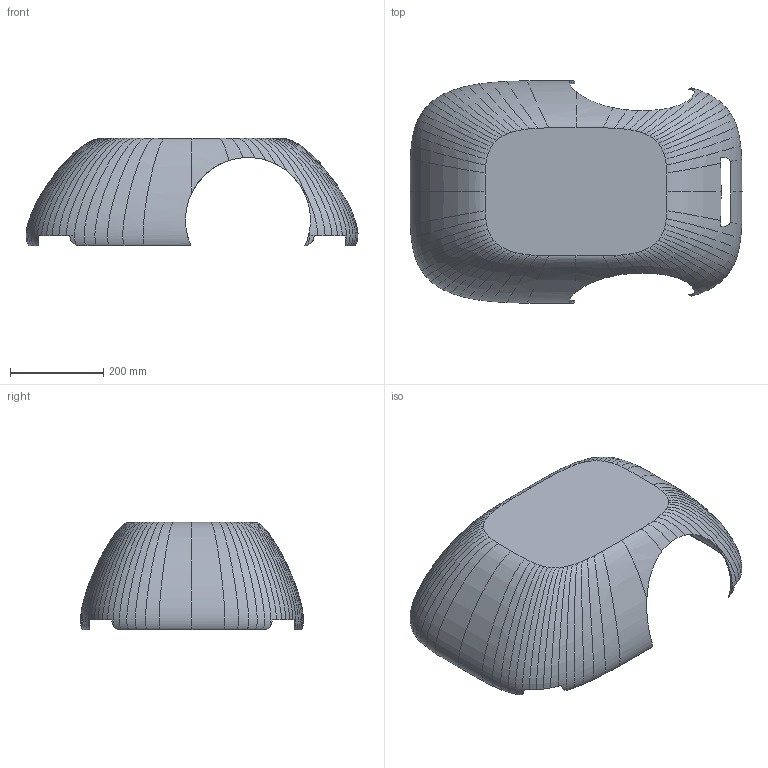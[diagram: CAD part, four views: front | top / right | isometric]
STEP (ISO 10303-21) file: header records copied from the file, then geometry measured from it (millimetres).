
FILE_DESCRIPTION(('Open CASCADE Model'),'2;1');
FILE_NAME('Open CASCADE Shape Model','2026-09-16T16:54:27',('Author'),( 'Open CASCADE'),'Open CASCADE STEP processor 7.8','Open CASCADE 7.8' ,'Unknown');
FILE_SCHEMA(('AUTOMOTIVE_DESIGN { 1 0 10303 214 1 1 1 1 }'));
Length unit declared in the file: millimetre
Products named in the file (1): Open CASCADE STEP translator 7.8 1
Bounding box: 711.88 x 477.86 x 230 mm (x, y, z)
Volume: 2391298.5 mm3; surface area: 970369 mm2
Topology: 1 solids, 1 shells, 178 faces, 535 edges, 357 vertices
Faces by surface type: bspline 150, plane 24, cylinder 4
Entity records: 17051 total; most frequent: CARTESIAN_POINT 9203, ORIENTED_EDGE 1070, PCURVE 1070, DEFINITIONAL_REPRESENTATION 1070, B_SPLINE_CURVE_WITH_KNOTS 905, DIRECTION 607, LINE 544, VECTOR 544
